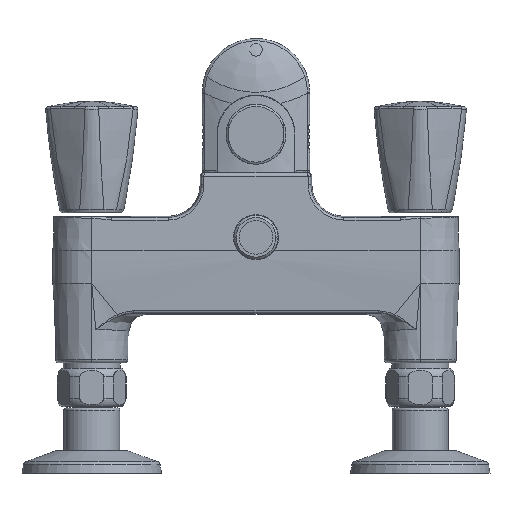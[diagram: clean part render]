
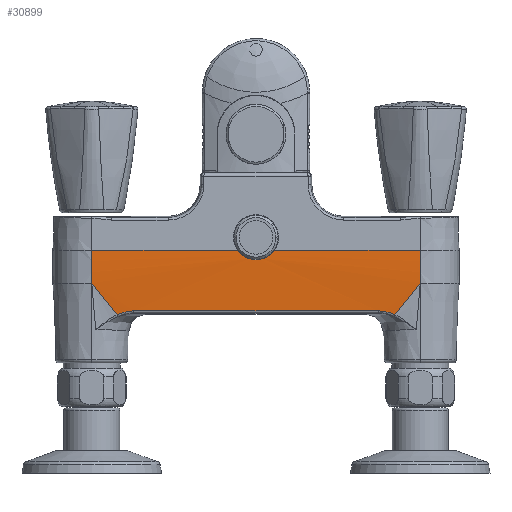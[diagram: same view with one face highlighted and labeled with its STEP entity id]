
A CAD part, front view. The second image highlights one B-rep face of the part: STEP entity #30899.
In plain terms, the highlighted cylindrical face has radius 255.3 mm (diameter 510.6 mm), a partial arc.
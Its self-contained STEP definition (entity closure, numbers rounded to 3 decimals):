
#2225=DIRECTION('',(1.,0.,0.));
#2226=VECTOR('',#2225,67.844);
#2227=CARTESIAN_POINT('',(8.656,-18.162,
-35.944));
#2228=LINE('',#2227,#2226);
#2269=DIRECTION('',(1.,0.,0.));
#2270=VECTOR('',#2269,67.844);
#2271=CARTESIAN_POINT('',(-76.5,-18.162,-35.944));
#2272=LINE('',#2271,#2270);
#3621=CARTESIAN_POINT('',(-64.736,-17.155,
-66.078));
#3622=CARTESIAN_POINT('',(-66.031,-17.305,
-64.457));
#3623=CARTESIAN_POINT('',(-68.63,-17.575,
-61.209));
#3624=CARTESIAN_POINT('',(-72.556,-17.888,
-56.314));
#3625=CARTESIAN_POINT('',(-75.184,-18.033,
-53.045));
#3626=CARTESIAN_POINT('',(-76.5,-18.091,-51.409));
#3717=CARTESIAN_POINT('',(-56.863,-17.318,
-64.249));
#3718=CARTESIAN_POINT('',(-57.266,-17.318,
-64.249));
#3719=CARTESIAN_POINT('',(-58.089,-17.315,
-64.28));
#3720=CARTESIAN_POINT('',(-59.378,-17.303,
-64.425));
#3721=CARTESIAN_POINT('',(-60.701,-17.281,
-64.674));
#3722=CARTESIAN_POINT('',(-62.046,-17.25,
-65.03));
#3723=CARTESIAN_POINT('',(-63.398,-17.209,
-65.493));
#3724=CARTESIAN_POINT('',(-64.291,-17.174,
-65.871));
#3725=CARTESIAN_POINT('',(-64.736,-17.155,
-66.078));
#3732=CARTESIAN_POINT('',(8.656,-18.162,
-35.944));
#3733=CARTESIAN_POINT('',(8.481,-18.168,
-36.199));
#3734=CARTESIAN_POINT('',(8.11,-18.18,
-36.69));
#3735=CARTESIAN_POINT('',(7.489,-18.195,
-37.379));
#3736=CARTESIAN_POINT('',(6.812,-18.207,
-38.008));
#3737=CARTESIAN_POINT('',(6.08,-18.216,
-38.577));
#3738=CARTESIAN_POINT('',(5.303,-18.223,
-39.078));
#3739=CARTESIAN_POINT('',(4.483,-18.229,
-39.51));
#3740=CARTESIAN_POINT('',(3.63,-18.232,
-39.867));
#3741=CARTESIAN_POINT('',(2.746,-18.235,
-40.149));
#3742=CARTESIAN_POINT('',(1.844,-18.237,
-40.351));
#3743=CARTESIAN_POINT('',(0.925,-18.238,
-40.473));
#3744=CARTESIAN_POINT('',(0.309,-18.238,
-40.5));
#3745=CARTESIAN_POINT('',(0.,-18.238,
-40.5));
#3747=CARTESIAN_POINT('',(76.5,237.054,-42.5));
#3748=DIRECTION('',(1.,0.,0.));
#3749=DIRECTION('',(0.,-1.,0.026));
#3750=AXIS2_PLACEMENT_3D('',#3747,#3748,#3749);
#3752=CARTESIAN_POINT('',(-76.5,237.054,-42.5));
#3753=DIRECTION('',(-1.,0.,0.));
#3754=DIRECTION('',(0.,-0.999,-0.035));
#3755=AXIS2_PLACEMENT_3D('',#3752,#3753,#3754);
#3757=CARTESIAN_POINT('',(0.,-18.238,
-40.5));
#3758=CARTESIAN_POINT('',(-0.309,-18.238,
-40.5));
#3759=CARTESIAN_POINT('',(-0.925,-18.238,
-40.473));
#3760=CARTESIAN_POINT('',(-1.844,-18.237,
-40.351));
#3761=CARTESIAN_POINT('',(-2.747,-18.235,
-40.148));
#3762=CARTESIAN_POINT('',(-3.63,-18.232,
-39.867));
#3763=CARTESIAN_POINT('',(-4.484,-18.229,
-39.509));
#3764=CARTESIAN_POINT('',(-5.303,-18.223,
-39.078));
#3765=CARTESIAN_POINT('',(-6.081,-18.216,
-38.576));
#3766=CARTESIAN_POINT('',(-6.812,-18.207,
-38.008));
#3767=CARTESIAN_POINT('',(-7.49,-18.195,
-37.378));
#3768=CARTESIAN_POINT('',(-8.11,-18.18,
-36.69));
#3769=CARTESIAN_POINT('',(-8.481,-18.168,
-36.199));
#3770=CARTESIAN_POINT('',(-8.656,-18.162,
-35.944));
#3988=DIRECTION('',(-1.,0.,0.));
#3989=VECTOR('',#3988,113.726);
#3990=CARTESIAN_POINT('',(56.863,-17.318,
-64.249));
#3991=LINE('',#3990,#3989);
#4006=CARTESIAN_POINT('',(64.736,-17.155,
-66.078));
#4007=CARTESIAN_POINT('',(64.289,-17.174,
-65.87));
#4008=CARTESIAN_POINT('',(63.392,-17.209,
-65.491));
#4009=CARTESIAN_POINT('',(62.032,-17.25,
-65.025));
#4010=CARTESIAN_POINT('',(60.684,-17.282,
-64.67));
#4011=CARTESIAN_POINT('',(59.367,-17.303,
-64.423));
#4012=CARTESIAN_POINT('',(58.089,-17.315,
-64.28));
#4013=CARTESIAN_POINT('',(57.267,-17.318,
-64.249));
#4014=CARTESIAN_POINT('',(56.863,-17.318,
-64.249));
#4094=CARTESIAN_POINT('',(64.736,-17.155,
-66.078));
#4096=CARTESIAN_POINT('',(76.5,-18.091,-51.409));
#4097=CARTESIAN_POINT('',(75.184,-18.033,
-53.045));
#4098=CARTESIAN_POINT('',(72.556,-17.888,
-56.314));
#4099=CARTESIAN_POINT('',(68.63,-17.575,
-61.209));
#4100=CARTESIAN_POINT('',(66.031,-17.305,
-64.457));
#4101=CARTESIAN_POINT('',(64.736,-17.155,
-66.078));
#24272=CARTESIAN_POINT('',(76.5,-18.162,-35.944));
#24273=CARTESIAN_POINT('',(76.5,-18.091,-51.409));
#24274=VERTEX_POINT('',#24272);
#24275=VERTEX_POINT('',#24273);
#24280=CARTESIAN_POINT('',(-76.5,-18.091,-51.409));
#24281=CARTESIAN_POINT('',(-76.5,-18.162,-35.944));
#24282=VERTEX_POINT('',#24280);
#24283=VERTEX_POINT('',#24281);
#24310=VERTEX_POINT('',#4094);
#24312=VERTEX_POINT('',#4014);
#24315=CARTESIAN_POINT('',(-56.863,-17.318,
-64.249));
#24316=VERTEX_POINT('',#24315);
#24318=VERTEX_POINT('',#3725);
#24578=VERTEX_POINT('',#3732);
#24579=VERTEX_POINT('',#3745);
#24580=VERTEX_POINT('',#3770);
#30875=CARTESIAN_POINT('',(-76.5,237.054,-42.5));
#30876=DIRECTION('',(-1.,0.,0.));
#30877=DIRECTION('',(0.,0.,-1.));
#30878=AXIS2_PLACEMENT_3D('',#30875,#30876,#30877);
#30879=CYLINDRICAL_SURFACE('',#30878,255.3);
#30881=ORIENTED_EDGE('',*,*,#30880,.F.);
#30882=ORIENTED_EDGE('',*,*,#29119,.T.);
#30884=ORIENTED_EDGE('',*,*,#30883,.T.);
#30886=ORIENTED_EDGE('',*,*,#30885,.T.);
#30888=ORIENTED_EDGE('',*,*,#30887,.T.);
#30890=ORIENTED_EDGE('',*,*,#30889,.T.);
#30891=ORIENTED_EDGE('',*,*,#30868,.T.);
#30892=ORIENTED_EDGE('',*,*,#30728,.T.);
#30893=ORIENTED_EDGE('',*,*,#30026,.T.);
#30894=ORIENTED_EDGE('',*,*,#29125,.T.);
#30896=ORIENTED_EDGE('',*,*,#30895,.F.);
#30897=EDGE_LOOP('',(#30881,#30882,#30884,#30886,#30888,#30890,#30891,#30892,
#30893,#30894,#30896));
#30898=FACE_OUTER_BOUND('',#30897,.F.);
#30899=ADVANCED_FACE('',(#30898),#30879,.T.);
#3627=B_SPLINE_CURVE_WITH_KNOTS('',3,(#3621,#3622,#3623,#3624,#3625,#3626),
.UNSPECIFIED.,.F.,.F.,(4,1,1,4),(0.,0.333,0.667,1.),
.UNSPECIFIED.);
#3726=B_SPLINE_CURVE_WITH_KNOTS('',3,(#3717,#3718,#3719,#3720,#3721,#3722,#3723,
#3724,#3725),.UNSPECIFIED.,.F.,.F.,(4,1,1,1,1,1,4),(0.,0.167,
0.333,0.5,0.667,0.833,1.),
.UNSPECIFIED.);
#3746=B_SPLINE_CURVE_WITH_KNOTS('',3,(#3732,#3733,#3734,#3735,#3736,#3737,#3738,
#3739,#3740,#3741,#3742,#3743,#3744,#3745),.UNSPECIFIED.,.F.,.F.,(4,1,1,1,1,1,1,
1,1,1,1,4),(0.,0.091,0.182,0.273,
0.364,0.455,0.545,0.636,
0.727,0.818,0.909,1.),.UNSPECIFIED.);
#3751=CIRCLE('',#3750,255.3);
#3756=CIRCLE('',#3755,255.3);
#3771=B_SPLINE_CURVE_WITH_KNOTS('',3,(#3757,#3758,#3759,#3760,#3761,#3762,#3763,
#3764,#3765,#3766,#3767,#3768,#3769,#3770),.UNSPECIFIED.,.F.,.F.,(4,1,1,1,1,1,1,
1,1,1,1,4),(0.,0.091,0.182,0.273,
0.364,0.455,0.545,0.636,
0.727,0.818,0.909,1.),.UNSPECIFIED.);
#4015=B_SPLINE_CURVE_WITH_KNOTS('',3,(#4006,#4007,#4008,#4009,#4010,#4011,#4012,
#4013,#4014),.UNSPECIFIED.,.F.,.F.,(4,1,1,1,1,1,4),(0.,0.167,
0.333,0.5,0.667,0.833,1.),
.UNSPECIFIED.);
#4102=B_SPLINE_CURVE_WITH_KNOTS('',3,(#4096,#4097,#4098,#4099,#4100,#4101),
.UNSPECIFIED.,.F.,.F.,(4,1,1,4),(0.,0.333,0.667,1.),
.UNSPECIFIED.);
#29119=EDGE_CURVE('',#24578,#24274,#2228,.T.);
#29125=EDGE_CURVE('',#24283,#24580,#2272,.T.);
#30026=EDGE_CURVE('',#24282,#24283,#3756,.T.);
#30728=EDGE_CURVE('',#24318,#24282,#3627,.T.);
#30868=EDGE_CURVE('',#24316,#24318,#3726,.T.);
#30880=EDGE_CURVE('',#24578,#24579,#3746,.T.);
#30883=EDGE_CURVE('',#24274,#24275,#3751,.T.);
#30885=EDGE_CURVE('',#24275,#24310,#4102,.T.);
#30887=EDGE_CURVE('',#24310,#24312,#4015,.T.);
#30889=EDGE_CURVE('',#24312,#24316,#3991,.T.);
#30895=EDGE_CURVE('',#24579,#24580,#3771,.T.);
